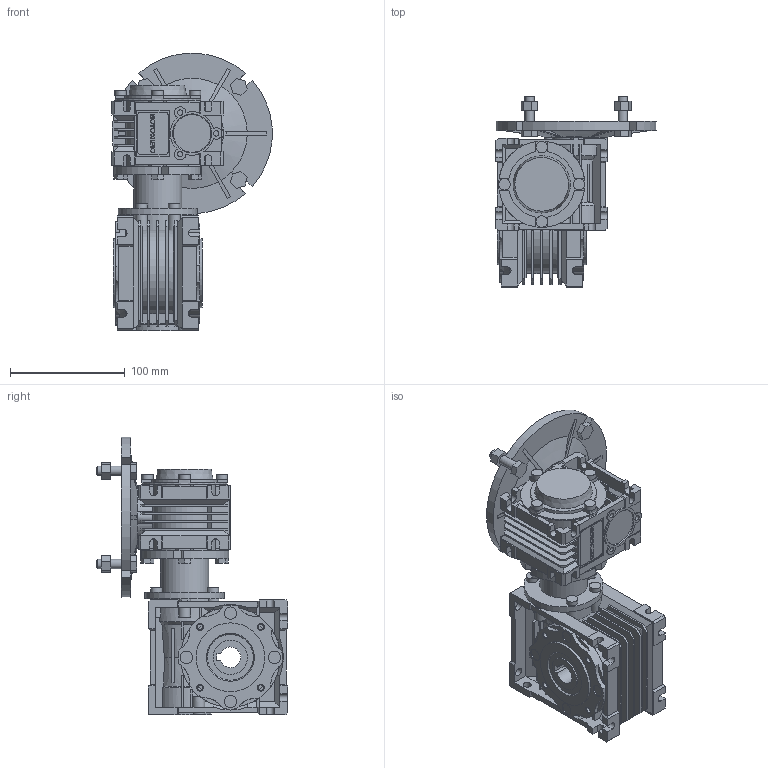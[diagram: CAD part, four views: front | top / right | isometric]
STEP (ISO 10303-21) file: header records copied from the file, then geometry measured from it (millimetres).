
FILE_DESCRIPTION(/* description */ ('STEP AP214'),/* implementation_level */ '2;1');
FILE_NAME(/* name */ 'NMRV-NMRV030-040100 (10x10)72118NO11NO00NO---(--------)',/* time_stamp */ '2024-10-22T09:42:04+02:00',/* author */ ('License CC BY-ND 4.0'),/* organization */ ('CADENAS'),/* preprocessor_version */ 'ST-DEVELOPER v19.3',/* originating_system */ 'PARTsolutions',/* authorisation */ ' ');
FILE_SCHEMA (('AUTOMOTIVE_DESIGN {1 0 10303 214 3 1 1}'));
Length unit declared in the file: millimetre
Products named in the file (13): NMRV-NMRV030-040100 (10x10)72118NO11NO00NO---(--------); 030-040100 (10x10)7214118No11No00NO---(--------)-d; 030-04050 (5x10)72118No11No00NO---d1; 030-04050 (5x10)72118No11No00T0631-d1; Gear unit 40; 040-18 (78)alc-n; VB 040-11 (11); Gear unit 30; 030-14 (63)alc-n; FT 030-040; Hollow shaft 30; VB 030-11 (11); 30-63 B5
Assembly tree (13 placements, depth 2):
  NMRV-NMRV030-040100 (10x10)72118NO11NO00NO---(--------)
    030-040100 (10x10)7214118No11No00NO---(--------)-d
    030-04050 (5x10)72118No11No00NO---d1
    030-04050 (5x10)72118No11No00T0631-d1  x2
    Gear unit 40
    040-18 (78)alc-n
    VB 040-11 (11)
    Gear unit 30
    030-14 (63)alc-n
    FT 030-040
    Hollow shaft 30
    VB 030-11 (11)
    30-63 B5
Bounding box: 139.77 x 167 x 241.77 mm (x, y, z)
Volume: 1163218.4 mm3; surface area: 307915.3 mm2
Topology: 9 solids, 16 shells, 1645 faces, 4397 edges, 2861 vertices
Faces by surface type: plane 1211, cylinder 334, cone 98, torus 2
Full cylindrical faces by diameter (mm): 3.545 x3, 4.65 x3, 4.917 x16, 5.55 x3, 6 x4, 7 x6, 8 x8, 10 x12, 10.8 x4, 16 x1, 19 x2, 23 x2, 24.8 x2, 28 x1, 30 x4, 36 x1, 37 x1, 38 x1, 40 x1, 42 x1, 47 x1, 55 x3, 60 x2, 69 x1, 75 x2, 93.5 x1, 95 x1
Entity records: 61795 total; most frequent: CARTESIAN_POINT 9445, ORIENTED_EDGE 8470, DIRECTION 8322, EDGE_CURVE 4235, LINE 3034, VECTOR 3034, VERTEX_POINT 2837, AXIS2_PLACEMENT_3D 2644
